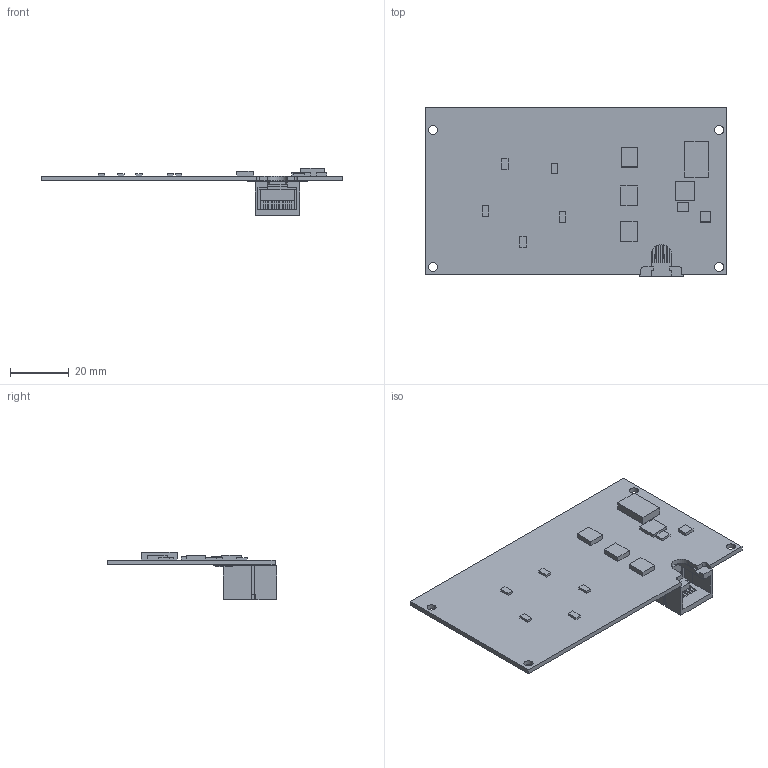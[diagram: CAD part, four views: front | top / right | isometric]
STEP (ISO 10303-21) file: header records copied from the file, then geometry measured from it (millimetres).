
FILE_DESCRIPTION (( 'STEP AP214' ), '1' );
FILE_NAME ('RFID110-L1.STEP', '2019-01-22T12:14:08', ( '' ), ( '' ), 'SwSTEP 2.0', 'SolidWorks 2018', '' );
FILE_SCHEMA (( 'AUTOMOTIVE_DESIGN' ));
Length unit declared in the file: millimetre
Products named in the file (1): RFID110-L1
Bounding box: 102.89 x 57.61 x 16.23 mm (x, y, z)
Volume: 11321 mm3; surface area: 14879.5 mm2
Topology: 1 solids, 1 shells, 452 faces, 1273 edges, 840 vertices
Faces by surface type: plane 374, cylinder 78
Entity records: 17561 total; most frequent: CARTESIAN_POINT 2566, ORIENTED_EDGE 2546, DIRECTION 2335, EDGE_CURVE 1273, LINE 1117, VECTOR 1117, VERTEX_POINT 840, AXIS2_PLACEMENT_3D 609
